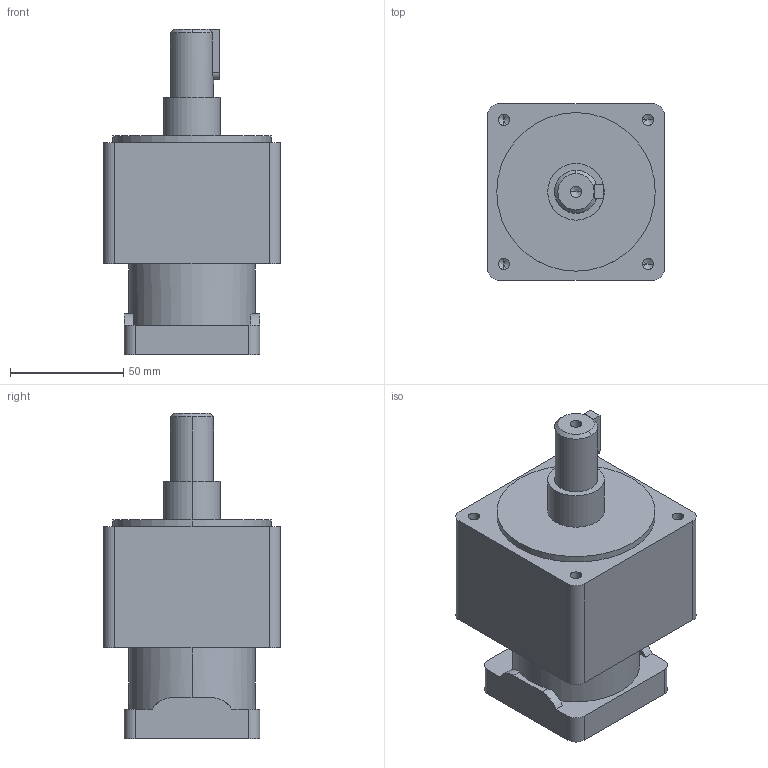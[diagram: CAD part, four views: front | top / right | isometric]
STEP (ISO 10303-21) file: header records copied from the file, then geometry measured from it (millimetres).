
FILE_DESCRIPTION (( 'STEP AP214' ), '1' );
FILE_NAME ('VRSF-80L1.STEP', '2019-09-07T08:38:01', ( '微软用户' ), ( '微软中国' ), 'SwSTEP 2.0', 'SolidWorks 2014', '' );
FILE_SCHEMA (( 'AUTOMOTIVE_DESIGN' ));
Length unit declared in the file: millimetre
Products named in the file (2): VRSF-80L1
Bounding box: 78 x 78 x 143.5 mm (x, y, z)
Volume: 453226.2 mm3; surface area: 46019.5 mm2
Topology: 2 solids, 2 shells, 722 faces, 2064 edges, 1362 vertices
Faces by surface type: plane 597, bspline 60, cylinder 44, cone 21
Entity records: 30285 total; most frequent: CARTESIAN_POINT 4966, ORIENTED_EDGE 4092, DIRECTION 3344, EDGE_CURVE 2046, LINE 1816, VECTOR 1816, VERTEX_POINT 1362, AXIS2_PLACEMENT_3D 764
